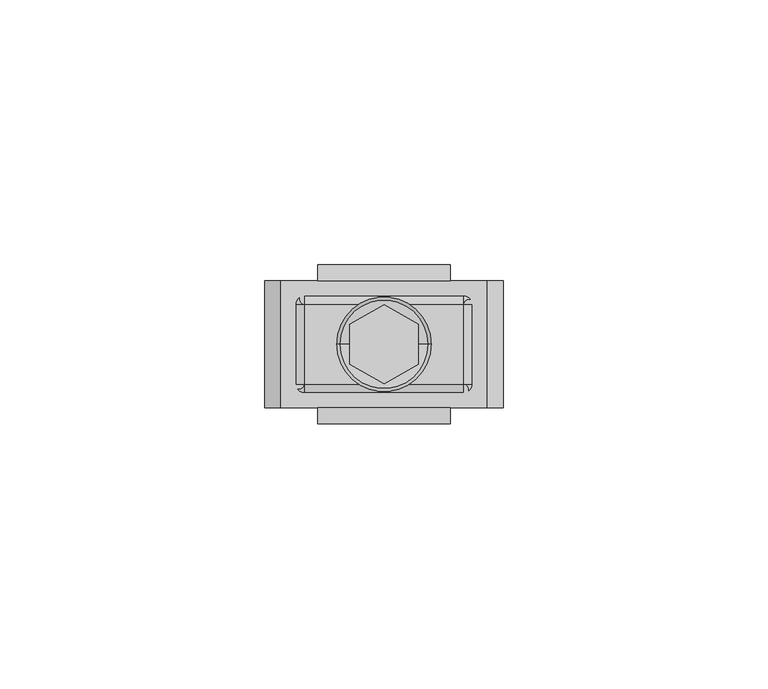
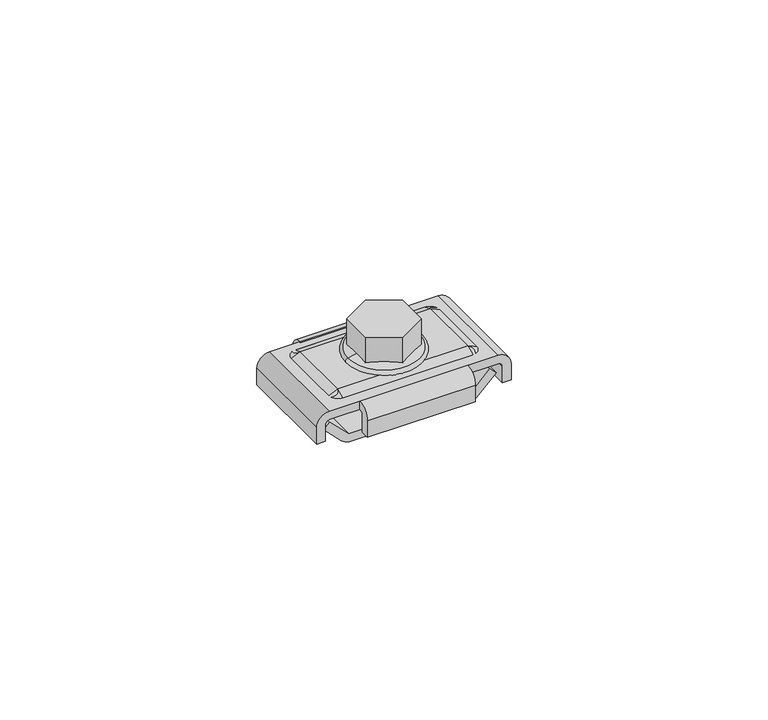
"""IFC4 building model written with IfcOpenShell, lengths in millimetres: cable carrier fitting geometry, BAKS_SUB_Mesh connector : LKDSC."""

from ifc_helpers import new_model, si_unit, point, frame, frame_2d, origin, place, context, project, spatial, polyline, circle_curve, ellipse_curve, trimmed, segment, composite_curve, outline, extrude, source, transform, mapped, element, save
from ifc_brep_helpers import plane_surface, revolved_surface, spline_surface, advanced_brep


def cable_carrier_fitting_cf50b9aa(model_context):
    return source(origin(), model_context, "Body", "SolidModel", [
        advanced_brep(
        [(12.3284271, -5.5, -8.363961), (12.3284271, 5.5, -8.363961), (9.5, 8.3284271, -8.363961), (-9.5, 8.3284271, -8.363961), (-12.3284271, 5.5, -8.363961), (-12.3284271, -5.5, -8.363961), (-9.5, -8.3284271, -8.363961), (9.5, -8.3284271, -8.363961), (9.4715729, -5.4715729, -9.563961), (-9.4715729, -5.4715729, -9.563961), (-9.4715729, 5.4715729, -9.563961), (9.4715729, 5.4715729, -9.563961)],
        [
            (0, 1),
            (1, 2, circle_curve(frame((9.5, 5.5, -8.363961), z_axis=(0.0, 0.0, 1.0), x_axis=(1.0, 0.0, 0.0)), 2.8284271)),
            (2, 3),
            (3, 4, circle_curve(frame((-9.5, 5.5, -8.363961), z_axis=(0.0, 0.0, 1.0), x_axis=(1.0, 0.0, 0.0)), 2.8284271)),
            (4, 5),
            (5, 6, circle_curve(frame((-9.5, -5.5, -8.363961), z_axis=(0.0, 0.0, 1.0), x_axis=(1.0, 0.0, 0.0)), 2.8284271)),
            (6, 7),
            (7, 0, circle_curve(frame((9.5, -5.5, -8.363961), z_axis=(0.0, 0.0, 1.0), x_axis=(1.0, 0.0, 0.0)), 2.8284271)),
            (8, 9),
            (9, 10),
            (10, 11),
            (11, 8),
            (7, 8),
            (8, 0),
            (6, 9),
            (5, 9),
            (4, 10),
            (3, 10),
            (2, 11),
            (1, 11),
        ],
        [
            plane_surface(frame((0.0, 0.0, -8.363961), z_axis=(0.0, 0.0, 1.0), x_axis=(-1.0, 0.0, 0.0))),
            plane_surface(frame((0.0, 0.0, -9.563961), z_axis=(0.0, 0.0, -1.0), x_axis=(-1.0, 0.0, 0.0))),
            spline_surface(1, 2, [[(9.4715729, -5.4715729, -9.563961), (9.4715729, -5.4715729, -9.563961), (9.4715729, -5.4715729, -9.563961)], [(12.3284271, -5.5, -8.363961), (12.3284271, -8.3284271, -8.363961), (9.5, -8.3284271, -8.363961)]], [2, 2], [3, 3], [0.0, 1.0], [0.0, 1.0], weights=[[1.0, 0.7071067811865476, 1.0], [1.0, 0.7071067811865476, 1.0]]),
            plane_surface(frame((0.0, -5.4715729, -9.563961), z_axis=(0.0, -0.38726573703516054, -0.9219681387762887), x_axis=(-1.0, 0.0, 0.0))),
            spline_surface(1, 2, [[(-9.4715729, -5.4715729, -9.563961), (-9.4715729, -5.4715729, -9.563961), (-9.4715729, -5.4715729, -9.563961)], [(-9.5, -8.3284271, -8.363961), (-12.3284271, -8.3284271, -8.363961), (-12.3284271, -5.5, -8.363961)]], [2, 2], [3, 3], [0.0, 1.0], [0.0, 1.0], weights=[[1.0, 0.7071067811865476, 1.0], [1.0, 0.7071067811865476, 1.0]]),
            plane_surface(frame((-9.4715729, 0.0, -9.563961), z_axis=(-0.38726573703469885, 0.0, -0.9219681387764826), x_axis=(0.0, 1.0, 0.0))),
            spline_surface(1, 2, [[(-9.4715729, 5.4715729, -9.563961), (-9.4715729, 5.4715729, -9.563961), (-9.4715729, 5.4715729, -9.563961)], [(-12.3284271, 5.5, -8.363961), (-12.3284271, 8.3284271, -8.363961), (-9.5, 8.3284271, -8.363961)]], [2, 2], [3, 3], [0.0, 1.0], [0.0, 1.0], weights=[[1.0, 0.7071067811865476, 1.0], [1.0, 0.7071067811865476, 1.0]]),
            plane_surface(frame((0.0, 5.4715729, -9.563961), z_axis=(0.0, 0.3872657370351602, -0.9219681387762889), x_axis=(1.0, 0.0, 0.0))),
            spline_surface(1, 2, [[(9.4715729, 5.4715729, -9.563961), (9.4715729, 5.4715729, -9.563961), (9.4715729, 5.4715729, -9.563961)], [(9.5, 8.3284271, -8.363961), (12.3284271, 8.3284271, -8.363961), (12.3284271, 5.5, -8.363961)]], [2, 2], [3, 3], [0.0, 1.0], [0.0, 1.0], weights=[[1.0, 0.7071067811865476, 1.0], [1.0, 0.7071067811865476, 1.0]]),
            plane_surface(frame((9.4715729, 0.0, -9.563961), z_axis=(0.38726573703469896, 0.0, -0.9219681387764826), x_axis=(0.0, -1.0, 0.0))),
        ],
        [
            (0, [[1, 2, 3, 4, 5, 6, 7, 8]]),
            (1, [[9, 10, 11, 12]]),
            (2, [[13, 14, -8]]),
            (3, [[-13, -7, 15, -9]]),
            (4, [[16, -15, -6]]),
            (5, [[-16, -5, 17, -10]]),
            (6, [[18, -17, -4]]),
            (7, [[-18, -3, 19, -11]]),
            (8, [[20, -19, -2]]),
            (9, [[-20, -1, -14, -12]]),
        ],
    ),
        extrude(outline(composite_curve([segment(polyline([(-6.363961, -14.1715729), (-1.9811289, -18.554405), (-3.3948456, -19.9681218), (-7.4848017, -15.8781657)]), True, "CONTINUOUS"), segment(trimmed(circle_curve(frame_2d((-5.334385, -13.7277489)), 3.0411485), [point((-7.4848017, -15.8781657))], [point((-8.363961, -13.9928025))], False, "CARTESIAN"), True, "CONTINUOUS"), segment(polyline([(-8.363961, -13.9928025), (-8.363961, 13.4626954)]), True, "CONTINUOUS"), segment(trimmed(circle_curve(frame_2d((-5.334385, 13.7277489)), 3.0411485), [point((-8.363961, 13.4626954))], [point((-7.4848017, 15.8781657))], False, "CARTESIAN"), True, "CONTINUOUS"), segment(polyline([(-7.4848017, 15.8781657), (-3.3948456, 19.9681218), (-1.981041, 18.5543172), (-6.363961, 14.1713972), (-6.363961, -14.1715729)]), True, "CONTINUOUS")], self_intersect=False)), frame((0.0, -10.3284271, 0.0), z_axis=(0.0, 1.0, 0.0), x_axis=(0.0, 0.0, 1.0)), (0.0, 0.0, 1.0), 20.8284271),
        extrude(outline(composite_curve([segment(polyline([(15.0, -1.0), (15.0, -5.0), (13.0, -5.0), (13.0, -1.0)]), True, "CONTINUOUS"), segment(trimmed(circle_curve(frame_2d((12.0, -1.0)), 1.0), [point((13.0, -1.0))], [point((12.0, 0.0))], True, "CARTESIAN"), True, "CONTINUOUS"), segment(polyline([(12.0, 0.0), (12.0, 2.0)]), True, "CONTINUOUS"), segment(trimmed(circle_curve(frame_2d((12.0, -1.0)), 3.0), [point((12.0, 2.0))], [point((15.0, -1.0))], False, "CARTESIAN"), True, "CONTINUOUS")], self_intersect=False)), frame((-12.5, 0.0, 0.0), z_axis=(1.0, 0.0, 0.0), x_axis=(0.0, 1.0, 0.0)), (0.0, 0.0, 1.0), 25.0),
        extrude(outline(composite_curve([segment(trimmed(circle_curve(frame_2d((-12.0, -1.0)), 3.0), [point((-15.0, -1.0))], [point((-12.0, 2.0))], False, "CARTESIAN"), True, "CONTINUOUS"), segment(polyline([(-12.0, 2.0), (-12.0, 0.0)]), True, "CONTINUOUS"), segment(trimmed(circle_curve(frame_2d((-12.0, -1.0)), 1.0), [point((-12.0, 0.0))], [point((-13.0, -1.0))], True, "CARTESIAN"), True, "CONTINUOUS"), segment(polyline([(-13.0, -1.0), (-13.0, -5.0), (-15.0, -5.0), (-15.0, -1.0)]), True, "CONTINUOUS")], self_intersect=False)), frame((-12.5, 0.0, 0.0), z_axis=(1.0, 0.0, 0.0), x_axis=(0.0, 1.0, 0.0)), (0.0, 0.0, 1.0), 25.0),
        extrude(outline(composite_curve([segment(polyline([(-1.0, -22.5), (-5.0, -22.5), (-5.0, -20.5), (-1.0, -20.5)]), True, "CONTINUOUS"), segment(trimmed(circle_curve(frame_2d((-1.0, -19.5)), 1.0), [point((-1.0, -20.5))], [point((0.0, -19.5))], True, "CARTESIAN"), True, "CONTINUOUS"), segment(polyline([(0.0, -19.5), (0.0, 19.5)]), True, "CONTINUOUS"), segment(trimmed(circle_curve(frame_2d((-1.0, 19.5)), 1.0), [point((0.0, 19.5))], [point((-1.0, 20.5))], True, "CARTESIAN"), True, "CONTINUOUS"), segment(polyline([(-1.0, 20.5), (-5.0, 20.5), (-5.0, 22.5), (-1.0, 22.5)]), True, "CONTINUOUS"), segment(trimmed(circle_curve(frame_2d((-1.0, 19.5)), 3.0), [point((-1.0, 22.5))], [point((2.0, 19.5))], False, "CARTESIAN"), True, "CONTINUOUS"), segment(polyline([(2.0, 19.5), (2.0, -19.5)]), True, "CONTINUOUS"), segment(trimmed(circle_curve(frame_2d((-1.0, -19.5)), 3.0), [point((2.0, -19.5))], [point((-1.0, -22.5))], False, "CARTESIAN"), True, "CONTINUOUS")], self_intersect=False)), frame((0.0, -12.0, 0.0), z_axis=(0.0, 1.0, 0.0), x_axis=(0.0, 0.0, 1.0)), (0.0, 0.0, 1.0), 24.0),
        advanced_brep(
        [(-8.3387965, 0.0, 3.74069), (-8.3387965, 0.0, 2.6142136), (8.3387965, 0.0, 2.6142136), (8.3387965, 0.0, 3.74069), (0.0, 0.0, 2.6142136), (-5.3951925, 0.0, 4.4746129), (5.3951925, 0.0, 4.4746129), (0.0, 0.0, 4.4746129)],
        [
            (0, 1, circle_curve(frame((-8.3387965, 0.0, 3.1774518), z_axis=(0.0, -1.0, 0.0), x_axis=(-1.0, 0.0, 0.0)), 0.5632382)),
            (1, 2, circle_curve(frame((0.0, 0.0, 2.6142136), z_axis=(0.0, 0.0, 1.0), x_axis=(1.0, 0.0, 0.0)), 8.3387965)),
            (2, 3, circle_curve(frame((8.3387965, 0.0, 3.1774518), z_axis=(0.0, -1.0, 0.0), x_axis=(1.0, 0.0, 0.0)), 0.5632382)),
            (3, 0, circle_curve(frame((0.0, 0.0, 3.74069), z_axis=(0.0, 0.0, -1.0), x_axis=(1.0, 0.0, 0.0)), 8.3387965)),
            (2, 1, circle_curve(frame((0.0, 0.0, 2.6142136), z_axis=(0.0, 0.0, 1.0), x_axis=(1.0, 0.0, 0.0)), 8.3387965)),
            (0, 3, circle_curve(frame((0.0, 0.0, 3.74069), z_axis=(0.0, 0.0, -1.0), x_axis=(1.0, 0.0, 0.0)), 8.3387965)),
            (1, 4),
            (4, 2),
            (5, 0),
            (3, 6),
            (6, 5, circle_curve(frame((0.0, 0.0, 4.4746129), z_axis=(0.0, 0.0, -1.0), x_axis=(1.0, 0.0, 0.0)), 5.3951925)),
            (5, 6, circle_curve(frame((0.0, 0.0, 4.4746129), z_axis=(0.0, 0.0, -1.0), x_axis=(1.0, 0.0, 0.0)), 5.3951925)),
            (7, 5),
            (6, 7),
        ],
        [
            revolved_surface(trimmed(ellipse_curve(frame((8.3387965, 0.0, 3.1774518), z_axis=(0.0, -1.0, 0.0), x_axis=(1.0, 0.0, 0.0)), 0.5632382, 0.5632382), [point((8.3387965, 0.0, 2.6142136))], [point((8.3387965, 0.0, 3.74069))], True, "CARTESIAN"), (0.0, 0.0, 10.536039), (0.0, 0.0, 1.0)),
            plane_surface(frame((0.0, 0.0, 2.6142136), z_axis=(0.0, 0.0, -1.0), x_axis=(1.0, 0.0, 0.0))),
            revolved_surface(polyline([(8.3387965, 0.0, 3.74069), (5.3951925, 0.0, 4.4746129)]), (0.0, 0.0, 10.536039), (0.0, 0.0, 1.0)),
            plane_surface(frame((0.0, 0.0, 4.4746129), z_axis=(0.0, 0.0, 1.0), x_axis=(1.0, 0.0, 0.0))),
        ],
        [
            (0, [[1, 2, 3, 4]]),
            (0, [[-3, 5, -1, 6]]),
            (1, [[7, 8, -2]]),
            (1, [[-8, -7, -5]]),
            (2, [[9, -4, 10, 11]]),
            (2, [[-10, -6, -9, 12]]),
            (3, [[13, -11, 14]]),
            (3, [[-14, -12, -13]]),
        ],
    ),
        extrude(outline(polyline([(-6.4951905, -3.75), (-6.4951905, 3.75), (0.0, 7.5), (6.4951905, 3.75), (6.4951905, -3.75), (0.0, -7.5), (-6.4951905, -3.75)])), frame((0.0, 0.0, 3.2), z_axis=(0.0, 0.0, 1.0), x_axis=(1.0, 0.0, 0.0)), (0.0, 0.0, 1.0), 7.336039),
        advanced_brep(
        [(15.0, -7.5, 3.2), (15.0, 7.5, 3.2), (-15.0, 7.5, 3.2), (-15.0, -7.5, 3.2), (15.0, -10.3284271, 2.0), (-15.0, -10.3284271, 2.0), (-17.8284271, -7.5, 2.0), (-17.8284271, 7.5, 2.0), (-15.0, 10.3284271, 2.0), (15.0, 10.3284271, 2.0), (17.8284271, 7.5, 2.0), (17.8284271, -7.5, 2.0)],
        [
            (0, 1),
            (1, 2),
            (2, 3),
            (3, 0),
            (4, 5),
            (5, 6, circle_curve(frame((-15.0, -7.5, 2.0), z_axis=(0.0, 0.0, -1.0), x_axis=(0.0, -1.0, 0.0)), 2.8284271)),
            (6, 7),
            (7, 8, circle_curve(frame((-15.0, 7.5, 2.0), z_axis=(0.0, 0.0, -1.0), x_axis=(-1.0, 0.0, 0.0)), 2.8284271)),
            (8, 9),
            (9, 10, circle_curve(frame((15.0, 7.5, 2.0), z_axis=(0.0, 0.0, -1.0), x_axis=(0.0, 1.0, 0.0)), 2.8284271)),
            (10, 11),
            (11, 4, circle_curve(frame((15.0, -7.5, 2.0), z_axis=(0.0, 0.0, -1.0), x_axis=(1.0, 0.0, 0.0)), 2.8284271)),
            (4, 0),
            (3, 5),
            (3, 6),
            (2, 7),
            (2, 8),
            (1, 9),
            (1, 10),
            (0, 11),
        ],
        [
            plane_surface(frame((0.0, 0.0, 3.2), z_axis=(0.0, 0.0, 1.0), x_axis=(-1.0, 0.0, 0.0))),
            plane_surface(frame((0.0, 0.0, 2.0), z_axis=(0.0, 0.0, -1.0), x_axis=(-1.0, 0.0, 0.0))),
            plane_surface(frame((0.0, -10.3284271, 2.0), z_axis=(0.0, -0.39056673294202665, 0.9205746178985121), x_axis=(-1.0, 0.0, 0.0))),
            revolved_surface(polyline([(-15.0, -7.5, 3.2), (-15.0, -10.3284271, 2.0)]), (-15.0, -7.5, 3.2), (0.0, 0.0, -1.0)),
            plane_surface(frame((-17.8284271, 0.0, 2.0), z_axis=(-0.39056673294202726, 0.0, 0.920574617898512), x_axis=(0.0, 1.0, 0.0))),
            revolved_surface(polyline([(-15.0, 7.5, 3.2), (-17.8284271, 7.5, 2.0)]), (-15.0, 7.5, 3.2), (0.0, 0.0, -1.0)),
            plane_surface(frame((0.0, 10.3284271, 2.0), z_axis=(0.0, 0.3905667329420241, 0.9205746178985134), x_axis=(1.0, 0.0, 0.0))),
            revolved_surface(polyline([(15.0, 7.5, 3.2), (15.0, 10.3284271, 2.0)]), (15.0, 7.5, 3.2), (0.0, 0.0, -1.0)),
            plane_surface(frame((17.8284271, 0.0, 2.0), z_axis=(0.3905667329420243, 0.0, 0.9205746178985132), x_axis=(0.0, -1.0, 0.0))),
            revolved_surface(polyline([(15.0, -7.5, 3.2), (17.8284271, -7.5, 2.0)]), (15.0, -7.5, 3.2), (0.0, 0.0, -1.0)),
        ],
        [
            (0, [[1, 2, 3, 4]]),
            (1, [[5, 6, 7, 8, 9, 10, 11, 12]]),
            (2, [[13, -4, 14, -5]]),
            (3, [[-14, 15, -6]]),
            (4, [[-15, -3, 16, -7]]),
            (5, [[-16, 17, -8]]),
            (6, [[-17, -2, 18, -9]]),
            (7, [[-18, 19, -10]]),
            (8, [[-19, -1, 20, -11]]),
            (9, [[-20, -13, -12]]),
        ],
    ),
    ])


if __name__ == "__main__":
    model = new_model("IFC4")
    model_context = context("Model", 3, world=origin())
    ifc_project = project(units=[si_unit("LENGTHUNIT", "METRE", prefix="MILLI")], contexts=[model_context])
    site = spatial("IfcSite", under=ifc_project)
    building = spatial("IfcBuilding", under=site)
    placement = place(None, origin())
    cable_carrier_fitting_shape = cable_carrier_fitting_cf50b9aa(model_context)
    element("IfcCableCarrierFitting", 1, ObjectType="BAKS_SUB_Mesh connector : LKDSC", at=placement, inside=building, context=model_context, shape_type="MappedRepresentation", body=[
        mapped(cable_carrier_fitting_shape, transform((0.0, 0.0, 0.0), x_axis=(1.0, 0.0, 0.0), y_axis=(0.0, 1.0, 0.0), z_axis=(0.0, 0.0, 1.0))),
    ])
    save(model, "model.ifc")
